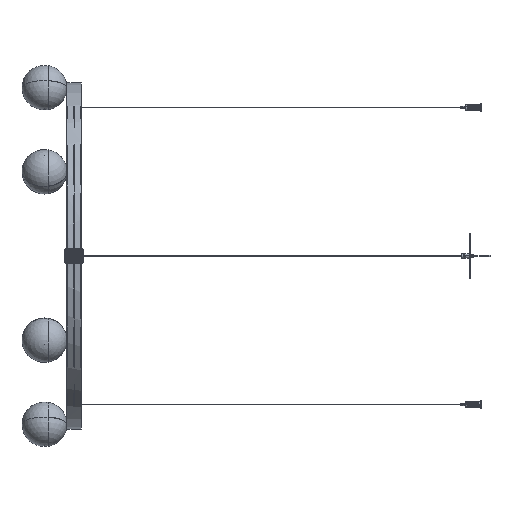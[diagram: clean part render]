
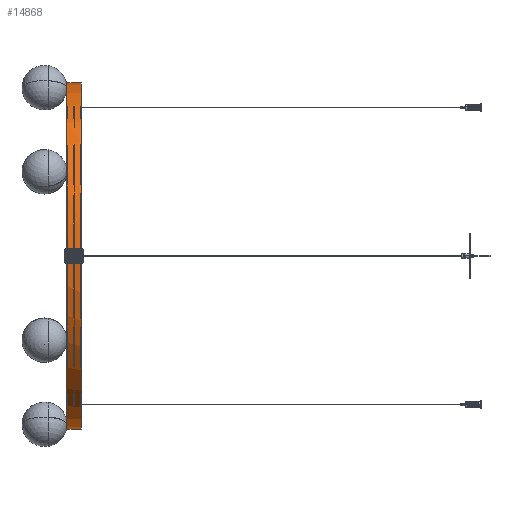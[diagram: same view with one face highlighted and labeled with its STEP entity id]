
A CAD part, front view. The second image highlights one B-rep face of the part: STEP entity #14868.
In plain terms, the highlighted cylindrical face has radius 352.15 mm (diameter 704.3 mm), a partial arc.
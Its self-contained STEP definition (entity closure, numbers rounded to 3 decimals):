
#13 = CARTESIAN_POINT ( 'NONE',  ( 13.649, 0.304, 14.637 ) ) ;
#491 = ORIENTED_EDGE ( 'NONE', *, *, #21818, .T. ) ;
#683 = VERTEX_POINT ( 'NONE', #54248 ) ;
#941 = CARTESIAN_POINT ( 'NONE',  ( 14.7, 352.15, 0. ) ) ;
#1866 = EDGE_LOOP ( 'NONE', ( #57093, #55711, #56762, #21497, #20856, #56620, #8752, #491, #7124, #22954 ) ) ;
#2688 = AXIS2_PLACEMENT_3D ( 'NONE', #24033, #14808, #50780 ) ;
#2730 = LINE ( 'NONE', #44170, #28428 ) ;
#3802 = CARTESIAN_POINT ( 'NONE',  ( 0., 0.304, 14.637 ) ) ;
#4891 = LINE ( 'NONE', #18084, #27324 ) ;
#7124 = ORIENTED_EDGE ( 'NONE', *, *, #21126, .T. ) ;
#7423 = CYLINDRICAL_SURFACE ( 'NONE', #44220, 352.15 ) ;
#7615 = CARTESIAN_POINT ( 'NONE',  ( -8.327, 0.335, -15.363 ) ) ;
#8752 = ORIENTED_EDGE ( 'NONE', *, *, #46303, .T. ) ;
#9055 = CARTESIAN_POINT ( 'NONE',  ( 13.649, 0.335, -15.363 ) ) ;
#9198 = CARTESIAN_POINT ( 'NONE',  ( -16.121, -0.101, -5.367 ) ) ;
#9966 = CIRCLE ( 'NONE', #44260, 352.15 ) ;
#10029 = CARTESIAN_POINT ( 'NONE',  ( 13.649, 0.335, -15.363 ) ) ;
#12027 = DIRECTION ( 'NONE',  ( 0., 0., -1. ) ) ;
#14419 = CARTESIAN_POINT ( 'NONE',  ( 14.7, 0.302, 14.577 ) ) ;
#14808 = DIRECTION ( 'NONE',  ( 1., 0., 0. ) ) ;
#14868 = ADVANCED_FACE ( 'NONE', ( #50399 ), #7423, .T. ) ;
#15051 = DIRECTION ( 'NONE',  ( 0., 0., -1. ) ) ;
#18084 = CARTESIAN_POINT ( 'NONE',  ( 0., 352.15, -352.15 ) ) ;
#18746 = CARTESIAN_POINT ( 'NONE',  ( 14.349, 0.303, 14.597 ) ) ;
#19704 = CARTESIAN_POINT ( 'NONE',  ( 14.7, 352.15, 352.15 ) ) ;
#20856 = ORIENTED_EDGE ( 'NONE', *, *, #27863, .T. ) ;
#21126 = EDGE_CURVE ( 'NONE', #58018, #36517, #28139, .T. ) ;
#21458 = DIRECTION ( 'NONE',  ( 1., 0., 0. ) ) ;
#21497 = ORIENTED_EDGE ( 'NONE', *, *, #34070, .F. ) ;
#21818 = EDGE_CURVE ( 'NONE', #683, #58018, #50474, .T. ) ;
#21856 = DIRECTION ( 'NONE',  ( 1., 0., 0. ) ) ;
#22086 = EDGE_CURVE ( 'NONE', #22935, #53890, #27241, .T. ) ;
#22935 = VERTEX_POINT ( 'NONE', #37130 ) ;
#22954 = ORIENTED_EDGE ( 'NONE', *, *, #53272, .F. ) ;
#23458 = CARTESIAN_POINT ( 'NONE',  ( 14.349, 0.334, -15.323 ) ) ;
#24033 = CARTESIAN_POINT ( 'NONE',  ( -14.7, 352.15, 0. ) ) ;
#24641 = VECTOR ( 'NONE', #56627, 1000. ) ;
#26462 = CARTESIAN_POINT ( 'NONE',  ( 0., 352.15, 0. ) ) ;
#27161 = CARTESIAN_POINT ( 'NONE',  ( -14.7, 352.15, -352.15 ) ) ;
#27241 = CIRCLE ( 'NONE', #2688, 352.15 ) ;
#27324 = VECTOR ( 'NONE', #31930, 1000. ) ;
#27863 = EDGE_CURVE ( 'NONE', #54478, #54858, #54150, .T. ) ;
#27914 = CARTESIAN_POINT ( 'NONE',  ( -16.121, -0.112, 4.639 ) ) ;
#28139 =( BOUNDED_CURVE ( )  B_SPLINE_CURVE ( 3, ( #13, #56210, #18746, #37488 ),
 .UNSPECIFIED., .F., .F. ) 
 B_SPLINE_CURVE_WITH_KNOTS ( ( 4, 4 ),
 ( 3.885, 3.885 ),
 .UNSPECIFIED. ) 
 CURVE ( )  GEOMETRIC_REPRESENTATION_ITEM ( )  RATIONAL_B_SPLINE_CURVE ( ( 1., 1., 1., 1. ) ) 
 REPRESENTATION_ITEM ( '' )  );
#28428 = VECTOR ( 'NONE', #21458, 1000. ) ;
#29913 =( BOUNDED_CURVE ( )  B_SPLINE_CURVE ( 3, ( #46050, #9198, #27914, #46641 ),
 .UNSPECIFIED., .F., .F. ) 
 B_SPLINE_CURVE_WITH_KNOTS ( ( 4, 4 ),
 ( 3.099, 3.184 ),
 .UNSPECIFIED. ) 
 CURVE ( )  GEOMETRIC_REPRESENTATION_ITEM ( )  RATIONAL_B_SPLINE_CURVE ( ( 1., 0.999, 0.999, 1. ) ) 
 REPRESENTATION_ITEM ( '' )  );
#30483 = VERTEX_POINT ( 'NONE', #7615 ) ;
#31930 = DIRECTION ( 'NONE',  ( 1., 0., 0. ) ) ;
#32377 = CARTESIAN_POINT ( 'NONE',  ( 13.999, 0.334, -15.343 ) ) ;
#32688 = VERTEX_POINT ( 'NONE', #53780 ) ;
#34070 = EDGE_CURVE ( 'NONE', #54478, #32688, #35621, .T. ) ;
#35621 = CIRCLE ( 'NONE', #56227, 352.15 ) ;
#36059 = VECTOR ( 'NONE', #40037, 1000. ) ;
#36517 = VERTEX_POINT ( 'NONE', #14419 ) ;
#36987 = CARTESIAN_POINT ( 'NONE',  ( 0., 0.335, -15.363 ) ) ;
#37130 = CARTESIAN_POINT ( 'NONE',  ( -14.7, 352.15, 352.15 ) ) ;
#37488 = CARTESIAN_POINT ( 'NONE',  ( 14.7, 0.302, 14.577 ) ) ;
#39957 = DIRECTION ( 'NONE',  ( 1., 0., 0. ) ) ;
#40037 = DIRECTION ( 'NONE',  ( 1., 0., 0. ) ) ;
#40890 = DIRECTION ( 'NONE',  ( 0., 0., -1. ) ) ;
#42648 = CARTESIAN_POINT ( 'NONE',  ( 13.649, 0.304, 14.637 ) ) ;
#44170 = CARTESIAN_POINT ( 'NONE',  ( 0., 352.15, 352.15 ) ) ;
#44220 = AXIS2_PLACEMENT_3D ( 'NONE', #26462, #39957, #12027 ) ;
#44260 = AXIS2_PLACEMENT_3D ( 'NONE', #45212, #21856, #40890 ) ;
#44842 = VERTEX_POINT ( 'NONE', #19704 ) ;
#45212 = CARTESIAN_POINT ( 'NONE',  ( 14.7, 352.15, 0. ) ) ;
#46050 = CARTESIAN_POINT ( 'NONE',  ( -8.327, 0.335, -15.363 ) ) ;
#46303 = EDGE_CURVE ( 'NONE', #30483, #683, #29913, .T. ) ;
#46641 = CARTESIAN_POINT ( 'NONE',  ( -8.327, 0.304, 14.637 ) ) ;
#47652 = EDGE_CURVE ( 'NONE', #53890, #32688, #4891, .T. ) ;
#50399 = FACE_OUTER_BOUND ( 'NONE', #1866, .T. ) ;
#50474 = LINE ( 'NONE', #3802, #36059 ) ;
#50780 = DIRECTION ( 'NONE',  ( 0., 0., -1. ) ) ;
#52022 = LINE ( 'NONE', #36987, #24641 ) ;
#52169 = CARTESIAN_POINT ( 'NONE',  ( 14.7, 0.333, -15.303 ) ) ;
#52894 = EDGE_CURVE ( 'NONE', #54858, #30483, #52022, .T. ) ;
#53272 = EDGE_CURVE ( 'NONE', #44842, #36517, #9966, .T. ) ;
#53780 = CARTESIAN_POINT ( 'NONE',  ( 14.7, 352.15, -352.15 ) ) ;
#53890 = VERTEX_POINT ( 'NONE', #27161 ) ;
#54150 =( BOUNDED_CURVE ( )  B_SPLINE_CURVE ( 3, ( #60616, #23458, #32377, #9055 ),
 .UNSPECIFIED., .F., .T. ) 
 B_SPLINE_CURVE_WITH_KNOTS ( ( 4, 4 ),
 ( 2.398, 2.398 ),
 .UNSPECIFIED. ) 
 CURVE ( )  GEOMETRIC_REPRESENTATION_ITEM ( )  RATIONAL_B_SPLINE_CURVE ( ( 1., 1., 1., 1. ) ) 
 REPRESENTATION_ITEM ( '' )  );
#54248 = CARTESIAN_POINT ( 'NONE',  ( -8.327, 0.304, 14.637 ) ) ;
#54478 = VERTEX_POINT ( 'NONE', #52169 ) ;
#54858 = VERTEX_POINT ( 'NONE', #10029 ) ;
#55711 = ORIENTED_EDGE ( 'NONE', *, *, #22086, .T. ) ;
#56210 = CARTESIAN_POINT ( 'NONE',  ( 13.999, 0.303, 14.617 ) ) ;
#56227 = AXIS2_PLACEMENT_3D ( 'NONE', #941, #57145, #15051 ) ;
#56620 = ORIENTED_EDGE ( 'NONE', *, *, #52894, .T. ) ;
#56627 = DIRECTION ( 'NONE',  ( -1., 0., 0. ) ) ;
#56762 = ORIENTED_EDGE ( 'NONE', *, *, #47652, .T. ) ;
#57093 = ORIENTED_EDGE ( 'NONE', *, *, #60193, .F. ) ;
#57145 = DIRECTION ( 'NONE',  ( 1., 0., 0. ) ) ;
#58018 = VERTEX_POINT ( 'NONE', #42648 ) ;
#60193 = EDGE_CURVE ( 'NONE', #22935, #44842, #2730, .T. ) ;
#60616 = CARTESIAN_POINT ( 'NONE',  ( 14.7, 0.333, -15.303 ) ) ;
